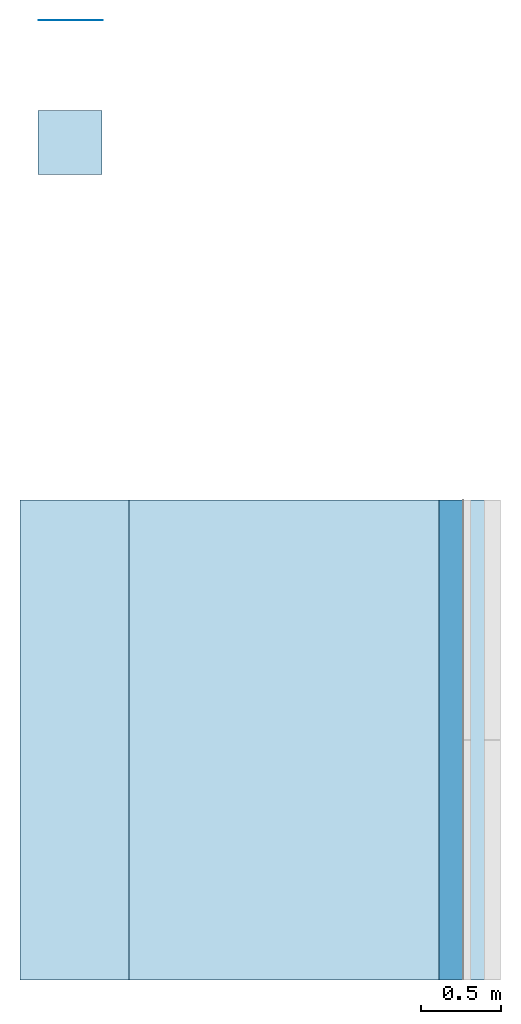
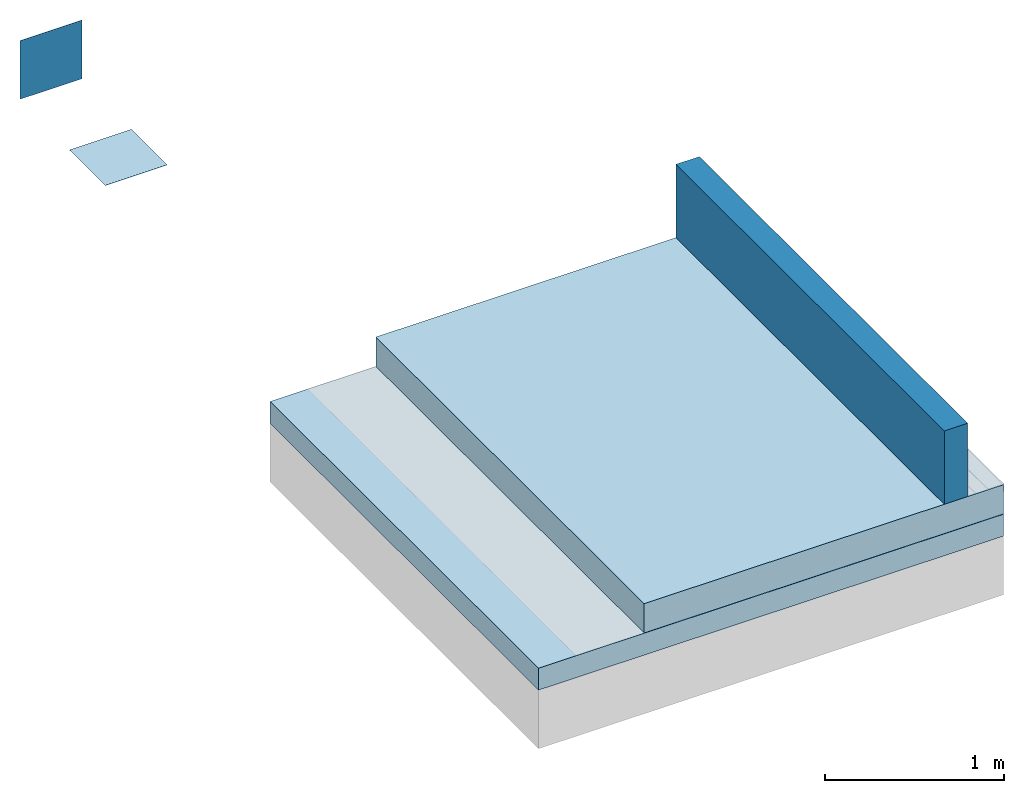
# One storey, part 1 of 2: 3 slabs, 2 walls.
"""IFC2X3 building model written with IfcOpenShell, lengths in metres."""

import ifcopenshell
import ifcopenshell.guid

model = None  # the IFC model being written
_history = None  # IfcOwnerHistory: only IFC2X3 demands one
_inside = {}  # id of a spatial element -> (the spatial element, [elements in it])
_under = {}  # id of a project, library or spatial element -> (it, [spatial elements below it])
_declared = {}  # id of a project -> (the project, [libraries it declares])
_typed = {}  # id of a type object -> (the type object, [elements of that type])
_made_of = {}  # id of a material, layer set ... -> (it, [elements and type objects made of it])


def new_model(schema):
    """Start an empty IFC model of exactly this schema.

    Asked for "IFC4X3", IfcOpenShell would pick the latest addendum, in which some entities
    have other attributes; the version numbers below select the first issue.
    IFC2X3 requires an IfcOwnerHistory on every rooted entity: one is made here for all.
    """
    global model, _history
    if schema == "IFC4X3":
        model = ifcopenshell.file(schema_version=(4, 3, 0, 0))
    else:
        model = ifcopenshell.file(schema=schema)
    _inside.clear()
    _under.clear()
    _declared.clear()
    _typed.clear()
    _made_of.clear()
    _history = None
    if model.schema == "IFC2X3":
        org = make("IfcOrganization", Name="unknown")
        user = make(
            "IfcPersonAndOrganization",
            ThePerson=make("IfcPerson", FamilyName="unknown"),
            TheOrganization=org,
        )
        app = make(
            "IfcApplication",
            ApplicationDeveloper=org,
            Version="unknown",
            ApplicationFullName="unknown",
            ApplicationIdentifier="unknown",
        )
        _history = make(
            "IfcOwnerHistory",
            OwningUser=user,
            OwningApplication=app,
            ChangeAction="ADDED",
            CreationDate=0,
        )
    return model


def make(cls, **values):
    """One entity of the class cls with the attributes given. An attribute that is None is left unset."""
    return model.create_entity(
        cls, **{name: value for name, value in values.items() if value is not None}
    )


def entity(cls, *values):
    """Any entity or typed value of the class cls, its attributes in the order of the schema. None: left unset."""
    e = model.create_entity(cls)
    for i, value in enumerate(values):
        if value is not None:
            e[i] = value
    return e


def rooted(cls, **values):
    """An entity with a GlobalId (a new one), such as an element, a storey or a relation."""
    return make(cls, GlobalId=ifcopenshell.guid.new(), OwnerHistory=_history, **values)


def si_unit(unit_type, name, prefix=None):
    """IfcSIUnit, for example si_unit("LENGTHUNIT", "METRE", prefix="MILLI")."""
    return make("IfcSIUnit", UnitType=unit_type, Prefix=prefix, Name=name)


def converted_unit(unit_type, name, factor, base, dimensions=None, offset=None):
    """IfcConversionBasedUnit, such as the inch: factor (a typed value) times the base unit."""
    return make(
        "IfcConversionBasedUnit"
        if offset is None
        else "IfcConversionBasedUnitWithOffset",
        ConversionOffset=offset,
        Dimensions=None
        if dimensions is None
        else entity("IfcDimensionalExponents", *dimensions),
        UnitType=unit_type,
        Name=name,
        ConversionFactor=make(
            "IfcMeasureWithUnit", ValueComponent=factor, UnitComponent=base
        ),
    )


def derived_unit(unit_type, elements):
    """IfcDerivedUnit: a product of units, each with its exponent."""
    return make(
        "IfcDerivedUnit",
        Elements=[
            make("IfcDerivedUnitElement", Unit=unit, Exponent=power)
            for unit, power in elements
        ],
        UnitType=unit_type,
    )


def assignment(units):
    """IfcUnitAssignment: the units of a project."""
    return None if units is None else make("IfcUnitAssignment", Units=units)


def point(xyz):
    """IfcCartesianPoint."""
    return None if xyz is None else make("IfcCartesianPoint", Coordinates=xyz)


def direction(xyz):
    """IfcDirection."""
    return None if xyz is None else make("IfcDirection", DirectionRatios=xyz)


def frame(location, z_axis=None, x_axis=None):
    """IfcAxis2Placement3D, a coordinate frame: its origin and axes. An axis left out is left unset."""
    return make(
        "IfcAxis2Placement3D",
        Location=point(location),
        Axis=direction(z_axis),
        RefDirection=direction(x_axis),
    )


def frame_2d(location, x_axis=None):
    """IfcAxis2Placement2D, a coordinate frame in the plane: its origin and x axis."""
    return make(
        "IfcAxis2Placement2D", Location=point(location), RefDirection=direction(x_axis)
    )


def origin():
    """The frame at (0, 0, 0) with its axes left unset."""
    return frame((0.0, 0.0, 0.0))


def origin_2d_with_axis():
    """The frame at (0, 0) in the plane with the x axis (1, 0) written out."""
    return frame_2d((0.0, 0.0), x_axis=(1.0, 0.0))


def place(relative_to, where):
    """IfcLocalPlacement: puts the frame where relative to a parent placement (None: the world)."""
    return make(
        "IfcLocalPlacement", PlacementRelTo=relative_to, RelativePlacement=where
    )


def context(
    kind, dimensions, precision=None, world=None, true_north=None, identifier=None
):
    """IfcGeometricRepresentationContext, for example the 3D "Model" context."""
    return make(
        "IfcGeometricRepresentationContext",
        ContextIdentifier=identifier,
        ContextType=kind,
        CoordinateSpaceDimension=dimensions,
        Precision=precision,
        WorldCoordinateSystem=world,
        TrueNorth=true_north,
    )


def subcontext(parent, identifier, kind, view, scale=None):
    """IfcGeometricRepresentationSubContext, for example "Body" below "Model"."""
    return make(
        "IfcGeometricRepresentationSubContext",
        ContextIdentifier=identifier,
        ContextType=kind,
        ParentContext=parent,
        TargetScale=scale,
        TargetView=view,
    )


def project(units=None, contexts=None):
    """IfcProject with its units and contexts."""
    return rooted(
        "IfcProject",
        Name="project",
        RepresentationContexts=contexts,
        UnitsInContext=assignment(units),
    )


def spatial(cls, under=None, at=None, **own):
    """A site, building, storey or space (cls), placed at a placement, below another one or the project."""
    s = rooted(cls, ObjectPlacement=at, **own)
    if under is not None:
        _under.setdefault(under.id(), (under, []))[1].append(s)
    return s


def profile(cls, at=None, kind="AREA", **sizes):
    """A parametric profile (cls). Its sizes go by their IFC names, for example OverallWidth=200.0."""
    return make(cls, ProfileType=kind, Position=at, **sizes)


def rectangle(**sizes):
    """IfcRectangleProfileDef."""
    return profile("IfcRectangleProfileDef", **sizes)


def extrude(swept, where, along, depth):
    """IfcExtrudedAreaSolid: the profile swept, set in the frame where, extruded along a direction by depth."""
    return make(
        "IfcExtrudedAreaSolid",
        SweptArea=swept,
        Position=where,
        ExtrudedDirection=direction(along),
        Depth=depth,
    )


def shape(context_of_items, identifier, shape_type, items):
    """IfcShapeRepresentation: the items that make up one representation, for example the "Body"."""
    return make(
        "IfcShapeRepresentation",
        ContextOfItems=context_of_items,
        RepresentationIdentifier=identifier,
        RepresentationType=shape_type,
        Items=items,
    )


def material(Name=None, Category=None):
    """IfcMaterial."""
    return make("IfcMaterial", Name=Name, Category=Category)


def layer(
    of_material, thickness, ventilated=None, Name=None, Category=None, Priority=None
):
    """IfcMaterialLayer: one layer of a wall or slab, of a material (None: an air gap)."""
    return make(
        "IfcMaterialLayer",
        Material=of_material,
        LayerThickness=thickness,
        IsVentilated=ventilated,
        Name=Name,
        Category=Category,
        Priority=Priority,
    )


def layer_set(layers, Name=None):
    """IfcMaterialLayerSet."""
    return make("IfcMaterialLayerSet", MaterialLayers=layers, LayerSetName=Name)


def layer_usage(for_layer_set, set_direction, sense, offset, extent=None):
    """IfcMaterialLayerSetUsage: how a layer set lies in its element."""
    return make(
        "IfcMaterialLayerSetUsage",
        ForLayerSet=for_layer_set,
        LayerSetDirection=set_direction,
        DirectionSense=sense,
        OffsetFromReferenceLine=offset,
        ReferenceExtent=extent,
    )


def made_of(thing, what):
    """Note that an element or type object is made of a material, layer set ...; save() writes the relation."""
    if what is not None:
        _made_of.setdefault(what.id(), (what, []))[1].append(thing)
    return thing


def type_object(cls, material=None, **own):
    """A type object (cls), such as IfcWallType, which elements share."""
    return made_of(rooted(cls, **own), material)


def element(
    cls,
    number,
    at=None,
    inside=None,
    cuts=None,
    type_object=None,
    material=None,
    context=None,
    identifier="Body",
    shape_type=None,
    held_by="IfcProductDefinitionShape",
    body=None,
    shapes=None,
    **own,
):
    """One element of the class cls, such as IfcWall. Its Tag is "e" and its number.

    at: its placement. inside: the storey or other place that contains it. cuts: it is an
    opening in that element (IfcRelVoidsElement). A single representation is given by context,
    identifier, shape_type and body (its items); several are given by shapes. held_by: the class
    of the entity that holds the representations. save() writes the other relations.
    """
    e = rooted(cls, Tag="e%d" % number, ObjectPlacement=at, **own)
    if body is not None:
        shapes = [shape(context, identifier, shape_type, body)]
    if shapes is not None:
        e.Representation = make(held_by, Representations=shapes)
    if inside is not None:
        _inside.setdefault(inside.id(), (inside, []))[1].append(e)
    if cuts is not None:
        rooted(
            "IfcRelVoidsElement", RelatingBuildingElement=cuts, RelatedOpeningElement=e
        )
    if type_object is not None:
        _typed.setdefault(type_object.id(), (type_object, []))[1].append(e)
    return made_of(e, material)


def aggregate(whole, parts):
    """IfcRelAggregates: a whole, such as a stair, and the parts it consists of."""
    return rooted("IfcRelAggregates", RelatingObject=whole, RelatedObjects=parts)


def save(model, path):
    """Write the relations noted so far, then the file.

    IfcRelAggregates (storeys below a building ...), IfcRelContainedInSpatialStructure (elements
    in a storey), IfcRelDefinesByType, IfcRelAssociatesMaterial and IfcRelDeclares: one each for
    every whole, place, type object, material and project.
    """
    for whole, parts in _under.values():
        aggregate(whole, parts)
    for where, things in _inside.values():
        rooted(
            "IfcRelContainedInSpatialStructure",
            RelatedElements=things,
            RelatingStructure=where,
        )
    for kind, things in _typed.values():
        rooted("IfcRelDefinesByType", RelatedObjects=things, RelatingType=kind)
    for what, things in _made_of.values():
        rooted("IfcRelAssociatesMaterial", RelatedObjects=things, RelatingMaterial=what)
    for by, libraries in _declared.values():
        rooted("IfcRelDeclares", RelatingContext=by, RelatedDefinitions=libraries)
    model.write(path)


model = new_model("IFC2X3")

# Units and contexts
model_context = context("Model", 3, precision=1e-05, world=origin(), true_north=direction((6.123031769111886e-17, 1.0)))
body_context = subcontext(model_context, "Body", "Model", "MODEL_VIEW")
ifc_project = project(units=[si_unit("LENGTHUNIT", "METRE"), si_unit("AREAUNIT", "SQUARE_METRE"), si_unit("VOLUMEUNIT", "CUBIC_METRE"), converted_unit("PLANEANGLEUNIT", "DEGREE", entity("IfcRatioMeasure", 0.017453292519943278), si_unit("PLANEANGLEUNIT", "RADIAN"), dimensions=[0, 0, 0, 0, 0, 0, 0]), si_unit("MASSUNIT", "GRAM", prefix="KILO"), derived_unit("MASSDENSITYUNIT", [(si_unit("MASSUNIT", "GRAM", prefix="KILO"), 1), (si_unit("LENGTHUNIT", "METRE"), -3)]), derived_unit("IONCONCENTRATIONUNIT", [(si_unit("MASSUNIT", "GRAM", prefix="KILO"), 1), (si_unit("LENGTHUNIT", "METRE"), -3)]), derived_unit("MOMENTOFINERTIAUNIT", [(si_unit("LENGTHUNIT", "METRE"), 4)]), si_unit("TIMEUNIT", "SECOND"), si_unit("FREQUENCYUNIT", "HERTZ"), si_unit("THERMODYNAMICTEMPERATUREUNIT", "DEGREE_CELSIUS"), derived_unit("THERMALTRANSMITTANCEUNIT", [(si_unit("MASSUNIT", "GRAM", prefix="KILO"), 1), (si_unit("THERMODYNAMICTEMPERATUREUNIT", "KELVIN"), -1), (si_unit("TIMEUNIT", "SECOND"), -3)]), derived_unit("THERMALCONDUCTANCEUNIT", [(si_unit("MASSUNIT", "GRAM", prefix="KILO"), 1), (si_unit("THERMODYNAMICTEMPERATUREUNIT", "KELVIN"), -1), (si_unit("TIMEUNIT", "SECOND"), -3), (si_unit("LENGTHUNIT", "METRE"), 1)]), derived_unit("VOLUMETRICFLOWRATEUNIT", [(si_unit("LENGTHUNIT", "METRE"), 3), (si_unit("TIMEUNIT", "SECOND"), -1)]), derived_unit("MASSFLOWRATEUNIT", [(si_unit("MASSUNIT", "GRAM", prefix="KILO"), 1), (si_unit("TIMEUNIT", "SECOND"), -1)]), derived_unit("ROTATIONALFREQUENCYUNIT", [(si_unit("TIMEUNIT", "SECOND"), -1)]), si_unit("ELECTRICCURRENTUNIT", "AMPERE"), si_unit("ELECTRICVOLTAGEUNIT", "VOLT"), si_unit("POWERUNIT", "WATT"), si_unit("FORCEUNIT", "NEWTON", prefix="KILO"), si_unit("ILLUMINANCEUNIT", "LUX"), si_unit("LUMINOUSFLUXUNIT", "LUMEN"), si_unit("LUMINOUSINTENSITYUNIT", "CANDELA"), derived_unit("USERDEFINED", [(si_unit("MASSUNIT", "GRAM", prefix="KILO"), -1), (si_unit("LENGTHUNIT", "METRE"), -2), (si_unit("TIMEUNIT", "SECOND"), 3), (si_unit("LUMINOUSFLUXUNIT", "LUMEN"), 1)]), derived_unit("USERDEFINED", [(si_unit("MASSUNIT", "GRAM", prefix="KILO"), 1), (si_unit("TIMEUNIT", "SECOND"), -3), (si_unit("LENGTHUNIT", "METRE"), 3), (si_unit("ELECTRICCURRENTUNIT", "AMPERE"), -2)]), derived_unit("SOUNDPOWERUNIT", [(si_unit("MASSUNIT", "GRAM", prefix="KILO"), 1), (si_unit("TIMEUNIT", "SECOND"), -3), (si_unit("LENGTHUNIT", "METRE"), 2)]), derived_unit("SOUNDPRESSUREUNIT", [(si_unit("MASSUNIT", "GRAM", prefix="KILO"), 1), (si_unit("LENGTHUNIT", "METRE"), -1), (si_unit("TIMEUNIT", "SECOND"), -2)]), derived_unit("LINEARVELOCITYUNIT", [(si_unit("LENGTHUNIT", "METRE"), 1), (si_unit("TIMEUNIT", "SECOND"), -1)]), si_unit("PRESSUREUNIT", "PASCAL"), derived_unit("USERDEFINED", [(si_unit("MASSUNIT", "GRAM", prefix="KILO"), 1), (si_unit("LENGTHUNIT", "METRE"), -2), (si_unit("TIMEUNIT", "SECOND"), -2)]), derived_unit("LINEARFORCEUNIT", [(si_unit("MASSUNIT", "GRAM", prefix="KILO"), 1), (si_unit("TIMEUNIT", "SECOND"), -2)]), derived_unit("PLANARFORCEUNIT", [(si_unit("MASSUNIT", "GRAM", prefix="KILO"), 1), (si_unit("LENGTHUNIT", "METRE"), -1), (si_unit("TIMEUNIT", "SECOND"), -2)]), derived_unit("SPECIFICHEATCAPACITYUNIT", [(si_unit("THERMODYNAMICTEMPERATUREUNIT", "KELVIN"), -1), (si_unit("LENGTHUNIT", "METRE"), 2), (si_unit("TIMEUNIT", "SECOND"), -2)]), derived_unit("HEATINGVALUEUNIT", [(si_unit("LENGTHUNIT", "METRE"), 2), (si_unit("TIMEUNIT", "SECOND"), -2)]), derived_unit("VAPORPERMEABILITYUNIT", [(si_unit("LENGTHUNIT", "METRE"), -1), (si_unit("TIMEUNIT", "SECOND"), 1)]), derived_unit("DYNAMICVISCOSITYUNIT", [(si_unit("MASSUNIT", "GRAM", prefix="KILO"), 1), (si_unit("TIMEUNIT", "SECOND"), -1), (si_unit("LENGTHUNIT", "METRE"), -1)]), derived_unit("THERMALEXPANSIONCOEFFICIENTUNIT", [(si_unit("THERMODYNAMICTEMPERATUREUNIT", "KELVIN"), -1)]), derived_unit("MODULUSOFELASTICITYUNIT", [(si_unit("MASSUNIT", "GRAM", prefix="KILO"), 1), (si_unit("LENGTHUNIT", "METRE"), -1), (si_unit("TIMEUNIT", "SECOND"), -2)]), derived_unit("ISOTHERMALMOISTURECAPACITYUNIT", [(si_unit("LENGTHUNIT", "METRE"), 3), (si_unit("MASSUNIT", "GRAM", prefix="KILO"), -1)]), derived_unit("MOISTUREDIFFUSIVITYUNIT", [(si_unit("TIMEUNIT", "SECOND"), -1), (si_unit("LENGTHUNIT", "METRE"), 2)])], contexts=[model_context])

# Site, building, storey
site_placement = place(None, origin())
site = spatial("IfcSite", under=ifc_project, at=site_placement, Name="Default", CompositionType="ELEMENT")
building_placement = place(site_placement, origin())
building = spatial("IfcBuilding", under=site, at=building_placement, CompositionType="ELEMENT")
storey_placement = place(building_placement, frame((0.0, 0.0, -0.0025237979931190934)))
storey = spatial("IfcBuildingStorey", under=building, at=storey_placement, Name="ARQ Térreo", CompositionType="ELEMENT", Elevation=-0.0025237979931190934)

# Slabs
ifc_material_1 = material(Name="#concreto")
ifc_layer_1 = layer(ifc_material_1, 0.2)
ifc_layer_set_1 = layer_set([ifc_layer_1], Name="Piso:Piso:LAJE CONCRETO")
ifc_layer_usage_1 = layer_usage(ifc_layer_set_1, "AXIS3", "POSITIVE", 0.0)
slab_type_1 = type_object("IfcSlabType", Name="Piso:Piso:LAJE CONCRETO", PredefinedType="FLOOR", material=ifc_layer_set_1)
slab_1_placement = place(storey_placement, origin())
element("IfcSlab", 1, at=slab_1_placement, inside=storey, type_object=slab_type_1, material=ifc_layer_usage_1, Name="Piso:Piso:LAJE CONCRETO", ObjectType="Piso:Piso:LAJE CONCRETO", PredefinedType="FLOOR", context=body_context, shape_type="SweptSolid", body=[
    extrude(rectangle(XDim=3.0000000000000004, YDim=2.3184999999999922, at=frame_2d((0.0, -1.1102230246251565e-16), x_axis=(1.0, 0.0))), frame((1.3387795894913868, -1.354129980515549, 0.0), z_axis=(0.0, 0.0, -1.0), x_axis=(0.0, 1.0, 0.0)), (0.0, 0.0, 1.0), 0.2),
])
ifc_material_2 = material(Name="#Amphibia")
ifc_layer_2 = layer(ifc_material_2, 0.0012999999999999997)
ifc_layer_set_2 = layer_set([ifc_layer_2], Name="Piso:IMPH_AMPHIBIA")
ifc_layer_usage_2 = layer_usage(ifc_layer_set_2, "AXIS3", "POSITIVE", 0.0)
slab_type_2 = type_object("IfcSlabType", Name="Piso:IMPH_AMPHIBIA", PredefinedType="FLOOR", material=ifc_layer_set_2)
slab_2_placement = place(storey_placement, origin())
element("IfcSlab", 2, at=slab_2_placement, inside=storey, type_object=slab_type_2, material=ifc_layer_usage_2, Name="Piso:IMPH_AMPHIBIA", ObjectType="Piso:IMPH_AMPHIBIA", PredefinedType="FLOOR", context=body_context, shape_type="SweptSolid", body=[
    extrude(rectangle(XDim=0.4, YDim=0.4, at=origin_2d_with_axis()), frame((-0.1907054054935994, 2.3810600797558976, 0.0), z_axis=(0.0, 0.0, -1.0), x_axis=(0.0, 1.0, 0.0)), (0.0, 0.0, 1.0), 0.0012999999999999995),
])
ifc_material_3 = material(Name="#concreto magro")
ifc_layer_3 = layer(ifc_material_3, 0.14999999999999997)
ifc_layer_set_3 = layer_set([ifc_layer_3], Name="Piso:LAJE DE SUBPRESSÃO")
ifc_layer_usage_3 = layer_usage(ifc_layer_set_3, "AXIS3", "POSITIVE", 0.0)
slab_type_3 = type_object("IfcSlabType", Name="Piso:LAJE DE SUBPRESSÃO", PredefinedType="FLOOR", material=ifc_layer_set_3)
slab_3_placement = place(storey_placement, origin())
element("IfcSlab", 3, at=slab_3_placement, inside=storey, type_object=slab_type_3, material=ifc_layer_usage_3, Name="Piso:LAJE DE SUBPRESSÃO", ObjectType="Piso:LAJE DE SUBPRESSÃO", PredefinedType="FLOOR", context=body_context, shape_type="SweptSolid", body=[
    extrude(rectangle(XDim=3.0000000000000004, YDim=3.0000000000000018, at=origin_2d_with_axis()), frame((0.9980295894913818, -1.354129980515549, -0.20129999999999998), z_axis=(0.0, 0.0, -1.0), x_axis=(0.0, 1.0, 0.0)), (0.0, 0.0, 1.0), 0.15000000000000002),
])

# Walls
ifc_layer_4 = layer(ifc_material_1, 0.14999999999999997)
ifc_layer_set_4 = layer_set([ifc_layer_4], Name="Parede básica:Parede básica:Parede Concreto")
ifc_layer_usage_4 = layer_usage(ifc_layer_set_4, "AXIS2", "NEGATIVE", 0.07499999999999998)
wall_type_1 = type_object("IfcWallType", Name="Parede básica:Parede básica:Parede Concreto", PredefinedType="STANDARD", material=ifc_layer_set_4)
wall_1_placement = place(storey_placement, frame((2.191529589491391, 0.14587001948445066, 0.0), z_axis=(0.0, 0.0, 1.0), x_axis=(0.0, -1.0, 0.0)))
element("IfcWallStandardCase", 4, at=wall_1_placement, inside=storey, type_object=wall_type_1, material=ifc_layer_usage_4, Name="Parede básica:Parede Concreto", ObjectType="Parede básica:Parede Concreto", context=body_context, shape_type="SweptSolid", body=[
    extrude(rectangle(XDim=2.9999999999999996, YDim=0.15000000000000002, at=frame_2d((1.4999999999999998, 0.0), x_axis=(-1.0, 0.0))), origin(), (0.0, 0.0, 1.0), 0.49999999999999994),
])
ifc_layer_5 = layer(ifc_material_2, 0.0012999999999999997)
ifc_layer_set_5 = layer_set([ifc_layer_5], Name="Parede básica:IMPV_AMPHIBIA")
ifc_layer_usage_5 = layer_usage(ifc_layer_set_5, "AXIS2", "NEGATIVE", 0.0006499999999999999)
wall_type_2 = type_object("IfcWallType", Name="Parede básica:IMPV_AMPHIBIA", PredefinedType="STANDARD", material=ifc_layer_set_5)
wall_2_placement = place(storey_placement, frame((0.01652958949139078, 3.146520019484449, 0.0), z_axis=(0.0, 0.0, 1.0), x_axis=(-1.0, 0.0, 0.0)))
element("IfcWallStandardCase", 5, at=wall_2_placement, inside=storey, type_object=wall_type_2, material=ifc_layer_usage_5, Name="Parede básica:IMPV_VP1000", ObjectType="Parede básica:IMPV_VP1000", context=body_context, shape_type="SweptSolid", body=[
    extrude(rectangle(XDim=0.4000000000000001, YDim=0.0012999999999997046, at=frame_2d((0.20000000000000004, 1.4148838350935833e-17), x_axis=(-1.0, 0.0))), origin(), (0.0, 0.0, 1.0), 0.4),
])

save(model, "model.ifc")
